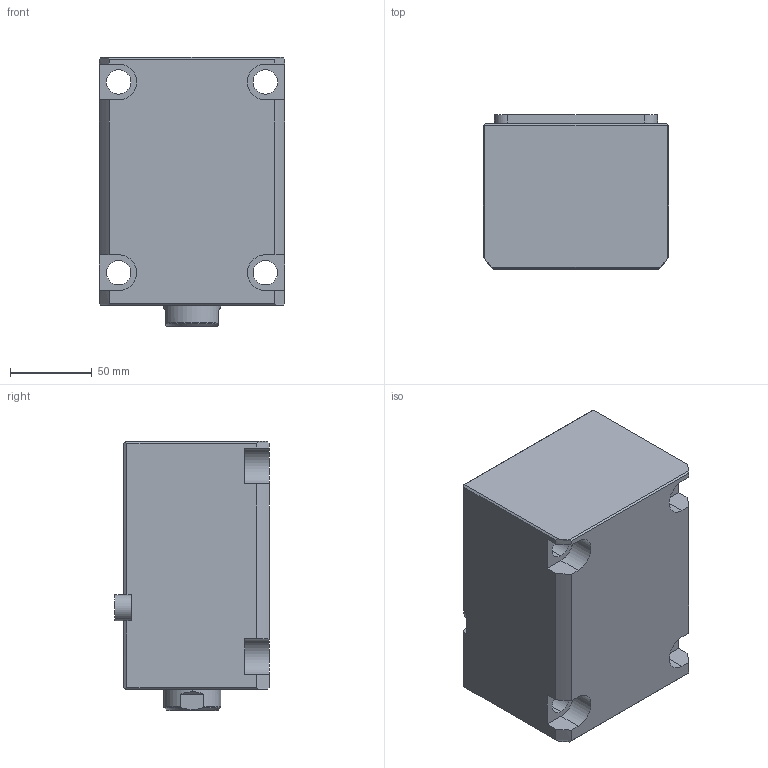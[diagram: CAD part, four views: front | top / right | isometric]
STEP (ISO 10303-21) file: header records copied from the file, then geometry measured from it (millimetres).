
FILE_DESCRIPTION (( 'STEP AP214' ), '1' );
FILE_NAME ('chtb-lam63x85n_asm.STEP', '2018-05-22T03:15:48', ( 'Windows' ), ( 'Microsoft' ), 'SwSTEP 2.0', 'SolidWorks 2015', '' );
FILE_SCHEMA (( 'AUTOMOTIVE_DESIGN' ));
Length unit declared in the file: millimetre
Products named in the file (5): CHTB-LAM63X85NBT; CHTB-LA63PJ; CHTB63X85NHSG; CHTB-63QG; chtb-lam63x85n_asm
Assembly tree (4 placements, depth 2):
  chtb-lam63x85n_asm
    CHTB-63QG
    CHTB63X85NHSG
    CHTB-LA63PJ
    CHTB-LAM63X85NBT
Bounding box: 114 x 94.5 x 165 mm (x, y, z)
Volume: 1283226.8 mm3; surface area: 175628.9 mm2
Topology: 4 solids, 4 shells, 183 faces, 539 edges, 366 vertices
Faces by surface type: cylinder 99, plane 55, bspline 13, cone 8, torus 8
Entity records: 19040 total; most frequent: CARTESIAN_POINT 14352, ORIENTED_EDGE 1066, DIRECTION 788, EDGE_CURVE 533, VERTEX_POINT 366, AXIS2_PLACEMENT_3D 291, LINE 206, VECTOR 206
